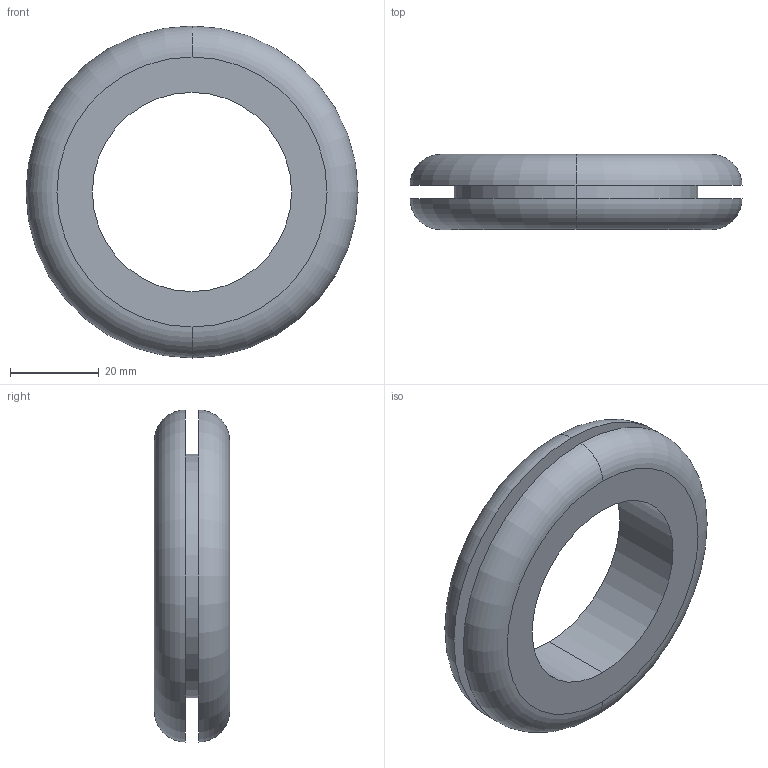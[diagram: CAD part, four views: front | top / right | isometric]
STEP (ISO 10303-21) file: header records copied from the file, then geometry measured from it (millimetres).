
FILE_DESCRIPTION (( 'STEP AP203' ), '1' );
FILE_NAME ('B-45-3.STEP', '2013-07-14T08:04:58', ( 'SDS' ), ( 'SDS' ), 'SwSTEP 2.0', 'SolidWorks 2002296', '' );
FILE_SCHEMA (( 'CONFIG_CONTROL_DESIGN' ));
Length unit declared in the file: millimetre
Products named in the file (1): B-45-3
Bounding box: 75 x 17 x 75 mm (x, y, z)
Volume: 37191.6 mm3; surface area: 14499.9 mm2
Topology: 1 solids, 1 shells, 12 faces, 24 edges, 16 vertices
Faces by surface type: plane 4, torus 4, cylinder 4
Entity records: 409 total; most frequent: DIRECTION 70, CARTESIAN_POINT 53, ORIENTED_EDGE 48, AXIS2_PLACEMENT_3D 33, EDGE_CURVE 24, CIRCLE 20, EDGE_LOOP 16, VERTEX_POINT 16
